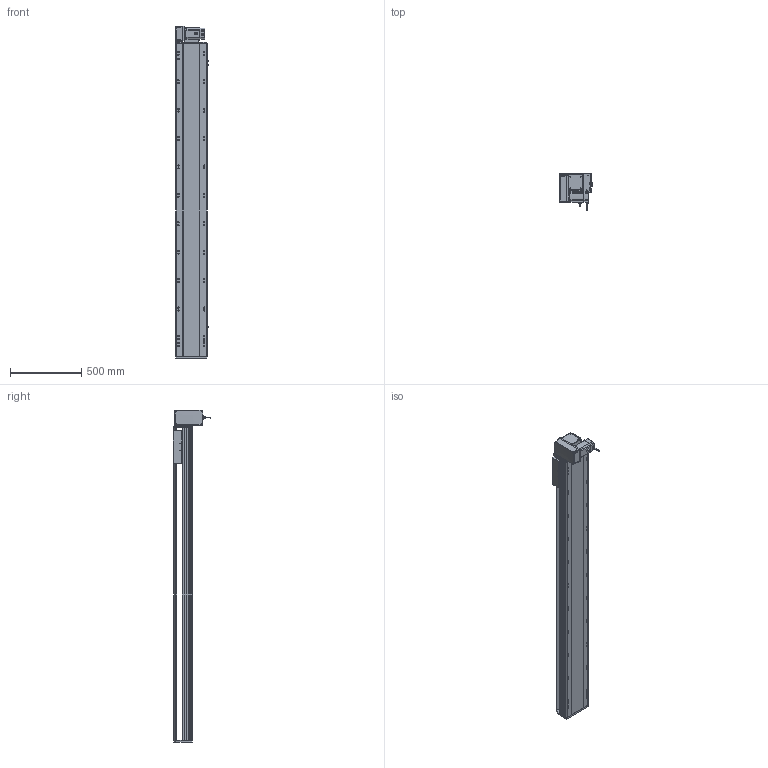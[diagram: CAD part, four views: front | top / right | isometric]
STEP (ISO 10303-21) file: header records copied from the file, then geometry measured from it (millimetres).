
FILE_DESCRIPTION (( 'STEP AP214' ), '1' );
FILE_NAME ('RTB22S-XX-1850-LM-M75-C4.STEP', '2025-12-12T03:54:10', ( '' ), ( '' ), 'SwSTEP 2.0', 'SolidWorks 2018', '' );
FILE_SCHEMA (( 'AUTOMOTIVE_DESIGN' ));
Length unit declared in the file: millimetre
Products named in the file (14): RTB22S-L-011菁釱^RTB22S-XX-XX-LM-M75-C4; RTB22S-GY-007奻裔^RTB22S-XX-XX-LM-M75-C4; RTB22S-GY-014--々湍釱^RMP22S-LM-々湍釱蚾饜_RTB22S-XX-XX-LM-M75-C4; RMP22S-LM-々湍釱蚾饜^RTB22S-XX-XX-LM-M75-C4; RTB22S-XX-1850-LM-M75-C4; RTB22S-GY-018P^RMP22S-LM-々湍釱蚾饜_RTB22S-XX-XX-LM-M75-C4; 750W萇儂^RTB22S-XX-XX-LM-M75-C4; RTB22S-GY-005P^RMP22S-LM-々湍釱蚾饜_RTB22S-XX-XX-LM-M75-C4; RTB22S-L-004賑釱^RTB22S-XX-XX-LM-M75-C4; RTB22S-GY-017P^RMP22S-LM-々湍釱蚾饜_RTB22S-XX-XX-LM-M75-C4; RTB22S-GY-008-M75--萇儂啣^RMP22S-LM-々湍釱蚾饜_RTB22S-XX-XX-LM-M75-C4; RTH22-GY-013外置感应片^RTB22S-XX-XX-LM-M75-C4; RTB22S-GY-001耜裔^RTB22S-XX-XX-LM-M75-C4; OMRON EE-SX672 传感器^RTB22S-XX-XX-LM-M75-C4
Assembly tree (16 placements, depth 3):
  RTB22S-XX-1850-LM-M75-C4
    RTB22S-L-011菁釱^RTB22S-XX-XX-LM-M75-C4
    RTB22S-GY-001耜裔^RTB22S-XX-XX-LM-M75-C4
    750W萇儂^RTB22S-XX-XX-LM-M75-C4
    RTB22S-GY-007奻裔^RTB22S-XX-XX-LM-M75-C4
    RTB22S-L-004賑釱^RTB22S-XX-XX-LM-M75-C4
    RTH22-GY-013外置感应片^RTB22S-XX-XX-LM-M75-C4
    OMRON EE-SX672 传感器^RTB22S-XX-XX-LM-M75-C4  x3
    RMP22S-LM-々湍釱蚾饜^RTB22S-XX-XX-LM-M75-C4
      RTB22S-GY-014--々湍釱^RMP22S-LM-々湍釱蚾饜_RTB22S-XX-XX-LM-M75-C4
      RTB22S-GY-017P^RMP22S-LM-々湍釱蚾饜_RTB22S-XX-XX-LM-M75-C4  x2
      RTB22S-GY-005P^RMP22S-LM-々湍釱蚾饜_RTB22S-XX-XX-LM-M75-C4
      RTB22S-GY-008-M75--萇儂啣^RMP22S-LM-々湍釱蚾饜_RTB22S-XX-XX-LM-M75-C4
      RTB22S-GY-018P^RMP22S-LM-々湍釱蚾饜_RTB22S-XX-XX-LM-M75-C4
Bounding box: 238.5 x 264.7 x 2337.5 mm (x, y, z)
Volume: 31187696.5 mm3; surface area: 3207799.1 mm2
Topology: 15 solids, 15 shells, 2055 faces, 5586 edges, 3572 vertices
Faces by surface type: plane 923, cylinder 670, bspline 296, cone 154, sphere 8, torus 4
Entity records: 55400 total; most frequent: CARTESIAN_POINT 15764, ORIENTED_EDGE 7928, DIRECTION 7698, EDGE_CURVE 3964, AXIS2_PLACEMENT_3D 2742, VERTEX_POINT 2576, VECTOR 2214, LINE 2214
